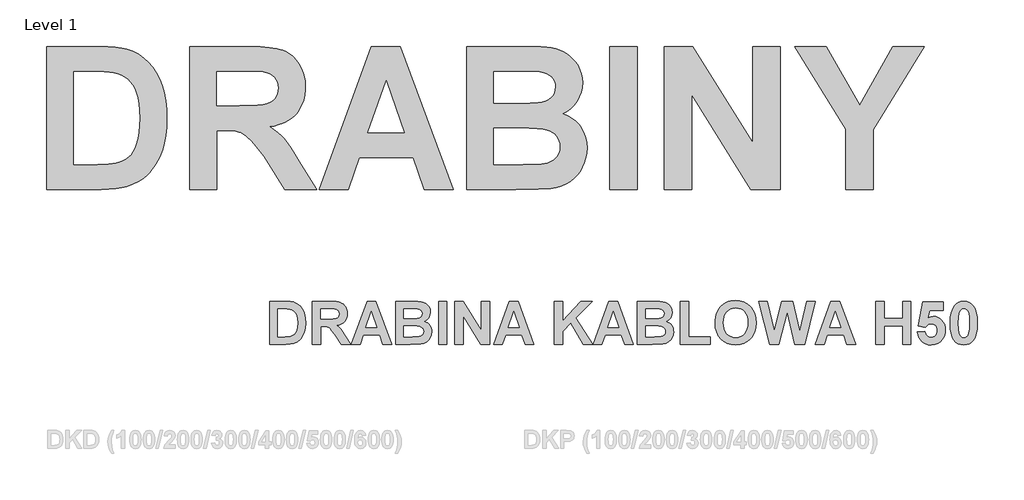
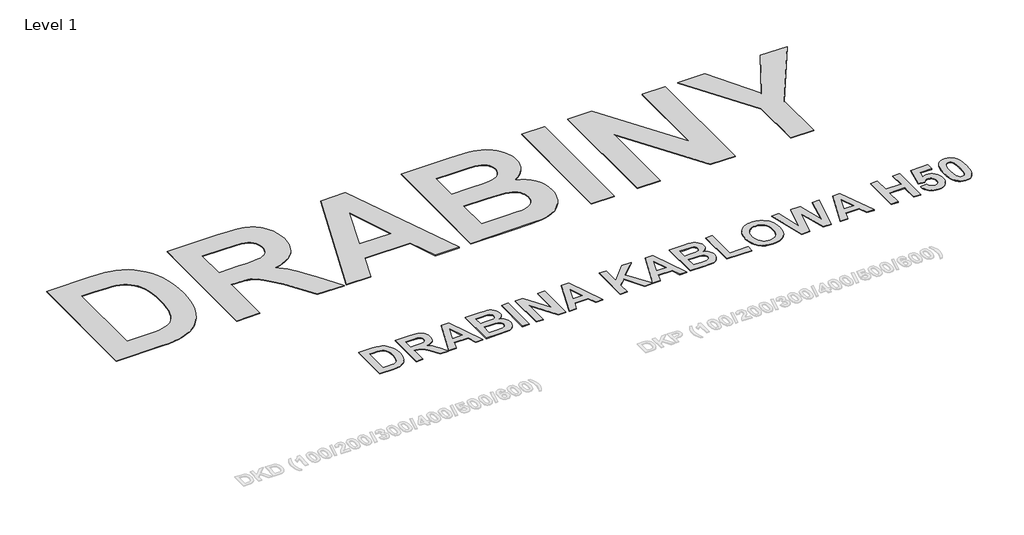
# One storey, part 35 of 42: 2 proxies.
"""IFC4 building model written with IfcOpenShell, lengths in millimetres."""

from ifc_helpers import new_model, si_unit, origin, origin_with_axes, place, context, project, spatial, polyline, outline, extrude, element, save

model = new_model("IFC4")

# Units and contexts
model_context = context("Model", 3, world=origin())
ifc_project = project(units=[si_unit("LENGTHUNIT", "METRE", prefix="MILLI")], contexts=[model_context])

# Site, building, storey
site = spatial("IfcSite", under=ifc_project)
building = spatial("IfcBuilding", under=site)
storey = spatial("IfcBuildingStorey", under=building, Name="Level 1", Elevation=0.0)

# Proxies
placement = place(None, origin())
element("IfcBuildingElementProxy", 1, Name="2000", ObjectType="2000", at=placement, inside=storey, context=model_context, shape_type="SweptSolid", body=[
    extrude(outline(polyline([(13186.787287, 27224.2582626), (13942.366297, 27224.2582626), (14062.5605467, 27221.8227475), (14167.5723649, 27214.5162023), (14257.4017516, 27202.338627), (14332.0487067, 27185.2900216), (14418.9048672, 27153.6125108), (14499.3084942, 27111.7184887), (14573.2595879, 27059.6079555), (14640.7581482, 26997.280911), (14701.1873887, 26926.050003), (14753.9305233, 26847.2278792), (14798.9875519, 26760.8145396), (14836.3584746, 26666.8099843), (14865.6953605, 26563.3005942), (14886.6502791, 26448.3727504), (14899.2232302, 26322.0264529), (14903.4142139, 26184.2617016), (14899.4920858, 26062.8022492), (14887.7257013, 25949.9461747), (14868.1150606, 25845.6934781), (14840.6601635, 25750.0441594), (14798.0860951, 25644.0201791), (14747.2882095, 25548.6239009), (14718.8053353, 25504.91115), (14688.2665069, 25463.8553247), (14655.6717241, 25425.4564249), (14621.0209871, 25389.7144507), (14562.6318858, 25340.4348083), (14494.7537648, 25296.8485777), (14417.386624, 25258.955759), (14330.5304635, 25226.7563521), (14256.4212196, 25207.936463), (14170.7353715, 25194.493685), (14073.4729194, 25186.4280183), (13964.6338633, 25183.7394627), (13186.787287, 25183.7394627), (13186.787287, 27224.2582626)]), holes=[polyline([(13575.4575346, 26867.9772023), (13575.4575346, 25540.020523), (13906.4345423, 25540.020523), (14066.3561546, 25544.828293), (14126.9593605, 25550.8380055), (14174.6574997, 25559.2516029), (14226.2619519, 25573.5642077), (14273.2800446, 25592.2101314), (14315.7117777, 25615.1893742), (14353.5571514, 25642.5019359), (14387.4803969, 25676.709852), (14418.1457456, 25720.3751577), (14445.5531975, 25773.4978531), (14469.7027527, 25836.0779381), (14489.4082837, 25909.5229507), (14503.4836629, 25995.2404289), (14511.9288905, 26093.2303725), (14514.7439663, 26203.4927816), (14511.9288905, 26312.9011789), (14503.4836629, 26408.8351683), (14489.4082837, 26491.2947496), (14469.7027527, 26560.2799229), (14444.9522263, 26619.1118452), (14415.7418606, 26671.1116732), (14382.0716556, 26716.2794071), (14343.9416114, 26754.6150467), (14300.8456469, 26786.6879334), (14252.2776809, 26813.0674082), (14198.2377137, 26833.7534712), (14138.725745, 26848.7461223), (14081.0641352, 26857.1597198), (14001.1982192, 26863.1694323), (13774.8534689, 26867.9772023), (13575.4575346, 26867.9772023)])]), origin_with_axes(), (0.0, 0.0, 1.0), 10.0),
    extrude(outline(polyline([(15227.3060869, 25183.7394627), (15227.3060869, 27224.2582626), (16085.6195504, 27224.2582626), (16236.4949639, 27220.8105854), (16365.2293314, 27210.4675539), (16471.8226528, 27193.2291681), (16516.8164213, 27182.0242173), (16556.2749283, 27169.095428), (16592.0485327, 27153.9604415), (16625.9875932, 27136.1368995), (16658.0921099, 27115.6248019), (16688.3620828, 27092.4241487), (16716.7975119, 27066.5349399), (16743.3983971, 27037.9571755), (16791.0965363, 26972.73598), (16829.6219563, 26899.5756379), (16857.1401135, 26821.2912253), (16873.6510078, 26737.882742), (16879.1546392, 26649.350188), (16877.1658988, 26592.9142432), (16871.1996777, 26538.9928887), (16861.2559758, 26487.5861244), (16847.3347931, 26438.6939503), (16829.4361297, 26392.3163664), (16807.5599855, 26348.4533728), (16781.7063605, 26307.1049694), (16751.8752548, 26268.2711562), (16718.0824833, 26232.4342917), (16680.3438611, 26200.0767345), (16638.6593883, 26171.1984845), (16593.0290647, 26145.7995417), (16543.4528904, 26123.8799062), (16489.9308655, 26105.4395778), (16432.4629898, 26090.4785567), (16371.0492635, 26078.9968429), (16430.1025962, 26039.3327405), (16483.7788177, 25997.7708341), (16532.077928, 25954.3111238), (16574.9999272, 25908.9536096), (16618.7126781, 25853.6326246), (16669.3840434, 25780.2825022), (16727.0140231, 25688.9032423), (16791.6026173, 25579.494845), (17041.1005757, 25183.7394627), (16587.1458725, 25183.7394627), (16291.5945384, 25649.8401112), (16148.8164217, 25828.803023), (16097.4966401, 25887.7772806), (16059.5563762, 25926.4134058), (16027.8314203, 25952.6505454), (15995.1575624, 25974.4278456), (15961.5348025, 25991.7453066), (15926.9631407, 26004.6029283), (15886.8087723, 26013.9021676), (15836.4378926, 26020.5444814), (15705.0465996, 26025.8583325), (15615.9763345, 26025.8583325), (15615.9763345, 25183.7394627), (15227.3060869, 25183.7394627)]), holes=[polyline([(15615.9763345, 26382.1393928), (15936.3256402, 26382.1393928), (16077.3482882, 26383.6101908), (16189.1763855, 26388.022585), (16271.8099322, 26395.3765753), (16325.2489283, 26405.6721617), (16361.9714346, 26419.5577605), (16394.4555121, 26437.6817882), (16422.7011608, 26460.0442447), (16446.7083807, 26486.6451299), (16465.8603855, 26517.1523283), (16479.5403889, 26551.2337241), (16487.7483909, 26588.8893174), (16490.4843916, 26630.119108), (16486.8785641, 26676.1250386), (16476.0610817, 26717.4813496), (16458.0319442, 26754.1880408), (16432.7911517, 26786.2451125), (16400.9713056, 26813.2413736), (16363.2050072, 26834.7656333), (16319.4922563, 26850.8178916), (16269.8330531, 26861.3981486), (16164.5681944, 26866.3324389), (15954.038477, 26867.9772023), (15615.9763345, 26867.9772023), (15615.9763345, 26382.1393928)])]), origin_with_axes(), (0.0, 0.0, 1.0), 10.0),
    extrude(outline(polyline([(18984.4518137, 25183.7394627), (18576.0444051, 25183.7394627), (18416.1227928, 25637.1880849), (17645.3613513, 25637.1880849), (17487.4640632, 25183.7394627), (17073.489763, 25183.7394627), (17818.4410709, 27224.2582626), (18232.4153711, 27224.2582626), (18984.4518137, 25183.7394627)]), holes=[polyline([(18291.6268541, 25993.4691452), (18028.9707884, 26738.4204531), (17769.85729, 25993.4691452), (18291.6268541, 25993.4691452)])]), origin_with_axes(), (0.0, 0.0, 1.0), 10.0),
    extrude(outline(polyline([(19178.7869375, 27224.2582626), (20016.3510779, 27224.2582626), (20233.2700686, 27219.1974521), (20318.0544598, 27212.8714389), (20387.0554482, 27204.0150205), (20446.5516018, 27191.1257687), (20502.8214887, 27172.7012555), (20555.8651089, 27148.7414807), (20605.6824624, 27119.2464444), (20651.8781734, 27084.3268518), (20694.0568661, 27044.0934082), (20732.2185404, 26998.5461136), (20766.3631963, 26947.6849679), (20794.4823247, 26892.5379483), (20814.5674165, 26834.133032), (20826.6184715, 26772.4702188), (20830.6354899, 26707.5495089), (20825.8435349, 26637.1409826), (20811.46767, 26569.6424224), (20787.5078952, 26505.0538282), (20753.9642105, 26443.3752), (20712.1967088, 26386.9155327), (20663.5654827, 26337.983821), (20608.0705324, 26296.580065), (20545.7118578, 26262.7042646), (20625.1033228, 26230.8844185), (20661.1457827, 26211.416113), (20694.7527275, 26189.5755527), (20725.9241573, 26165.3627373), (20754.660072, 26138.7776671), (20780.9604716, 26109.8203419), (20804.8253562, 26078.4907618), (20844.4578286, 26010.5810107), (20872.7667374, 25936.9145877), (20889.7520827, 25857.4914926), (20895.4138645, 25772.3117256), (20891.349401, 25703.4688876), (20879.1560107, 25635.6065816), (20858.8336934, 25568.7248076), (20830.3824493, 25502.8235657), (20794.8935156, 25440.7021166), (20753.4581295, 25385.1597212), (20706.076291, 25336.1963795), (20652.7480002, 25293.8120914), (20593.1727714, 25258.4654929), (20527.050119, 25230.6152201), (20454.380043, 25210.2612728), (20375.1625434, 25197.4036511), (20198.793297, 25188.4207124), (19876.1666266, 25183.7394627), (19178.7869375, 25183.7394627), (19178.7869375, 27224.2582626)]), holes=[polyline([(19567.4571851, 26058.2475198), (19567.4571851, 25540.020523), (19978.394999, 25540.020523), (20174.754447, 25543.0570093), (20239.9123824, 25546.8526172), (20283.0557921, 25552.1664682), (20330.3427403, 25562.8732455), (20373.011699, 25579.3050646), (20411.062668, 25601.4619256), (20444.4956475, 25629.3438286), (20471.7291341, 25662.6977329), (20491.1816245, 25701.270598), (20502.8531188, 25745.062424), (20506.7436169, 25794.0732109), (20503.7387606, 25835.9514179), (20494.7241919, 25874.5400981), (20479.6999107, 25909.8392514), (20458.665917, 25941.8488779), (20431.9701415, 25970.1577867), (20399.960515, 25994.354787), (20362.6370374, 26014.4398788), (20319.9997088, 26030.4130619), (20261.4208271, 26042.5906372), (20176.2726902, 26051.2889053), (20064.555298, 26056.5078662), (19926.2686507, 26058.2475198), (19567.4571851, 26058.2475198)]), polyline([(19567.4571851, 26867.9772023), (19567.4571851, 26414.5285801), (19864.0206814, 26414.5285801), (20078.5990472, 26416.1733435), (20192.9733649, 26421.1076338), (20247.8357139, 26430.0589424), (20296.5302001, 26444.7669229), (20339.0568234, 26465.2315754), (20375.415584, 26491.4528999), (20404.5310595, 26522.8615552), (20425.3278277, 26558.8882), (20437.8058886, 26599.5328345), (20441.9652423, 26644.7954585), (20438.3752298, 26687.9863133), (20427.6051924, 26726.9703693), (20409.6551301, 26761.7476266), (20384.5250429, 26792.3180851), (20352.341451, 26817.9858834), (20313.2308748, 26838.0551601), (20267.1933141, 26852.5259152), (20214.228769, 26861.3981486), (20083.9128983, 26866.3324389), (19827.5828457, 26867.9772023), (19567.4571851, 26867.9772023)])]), origin_with_axes(), (0.0, 0.0, 1.0), 10.0),
    extrude(outline(polyline([(21219.3057375, 25183.7394627), (21219.3057375, 27224.2582626), (21607.9759851, 27224.2582626), (21607.9759851, 25183.7394627), (21219.3057375, 25183.7394627)])), origin_with_axes(), (0.0, 0.0, 1.0), 10.0),
    extrude(outline(polyline([(21996.6462327, 25183.7394627), (21996.6462327, 27224.2582626), (22404.0414792, 27224.2582626), (23259.8245374, 25850.7542886), (23259.8245374, 27224.2582626), (23648.494785, 27224.2582626), (23648.494785, 25183.7394627), (23228.4475122, 25183.7394627), (22385.3164803, 26537.0001946), (22385.3164803, 25183.7394627), (21996.6462327, 25183.7394627)])), origin_with_axes(), (0.0, 0.0, 1.0), 10.0),
    extrude(outline(polyline([(24587.7812167, 25183.7394627), (24587.7812167, 26042.5590072), (23859.0245024, 27224.2582626), (24309.4366383, 27224.2582626), (24781.1041784, 26385.6819601), (25254.7960426, 27224.2582626), (25705.2081785, 27224.2582626), (24976.4514643, 26039.5225209), (24976.4514643, 25183.7394627), (24587.7812167, 25183.7394627)])), origin_with_axes(), (0.0, 0.0, 1.0), 10.0),
])
element("IfcBuildingElementProxy", 2, Name="600mm Arial", ObjectType="600mm Arial", at=placement, inside=storey, context=model_context, shape_type="SweptSolid", body=[
    extrude(outline(polyline([(16367.589447, 23585.9974666), (16594.26315, 23585.9974666), (16661.8249704, 23583.0748486), (16711.1678729, 23574.3069944), (16737.2247211, 23564.8037411), (16761.3458092, 23552.2355345), (16783.5311373, 23536.6023745), (16803.7807054, 23517.9042612), (16821.9094775, 23496.5349888), (16837.7324179, 23472.8883516), (16862.4608033, 23418.7629832), (16871.2618691, 23387.7101661), (16877.5483446, 23353.231813), (16882.5775251, 23273.9984984), (16877.8709713, 23203.7038403), (16863.75131, 23143.7332357), (16850.9790894, 23111.9260416), (16835.7397238, 23083.3071581), (16818.033213, 23057.8765853), (16797.8595571, 23035.6343231), (16759.9793903, 23007.7745612), (16710.7124, 22986.7468935), (16662.7738724, 22977.0680934), (16600.9434199, 22973.8418267), (16367.589447, 22973.8418267), (16367.589447, 23585.9974666)]), holes=[polyline([(16484.1905213, 23479.1131486), (16484.1905213, 23080.7261448), (16583.4836236, 23080.7261448), (16631.4601073, 23082.1684758), (16663.9505108, 23086.4954687), (16693.5372743, 23096.3830273), (16717.6204063, 23111.4705686), (16736.9969846, 23134.8325352), (16752.4640867, 23169.5433693), (16762.5983598, 23217.2921165), (16765.9764508, 23279.7678223), (16762.5983598, 23341.3705383), (16752.4640867, 23386.8039647), (16736.2758191, 23420.0534898), (16714.7357443, 23445.1045019), (16687.2365652, 23462.6402103), (16653.1709844, 23473.3438246), (16611.9127267, 23477.6708176), (16544.0093016, 23479.1131486), (16484.1905213, 23479.1131486)])]), origin_with_axes(), (0.0, 0.0, 1.0), 10.0),
    extrude(outline(polyline([(16979.745087, 22973.8418267), (16979.745087, 23585.9974666), (17237.239126, 23585.9974666), (17321.1220603, 23581.860254), (17353.1000568, 23576.6887383), (17378.4357394, 23569.4486163), (17399.3495389, 23559.5610577), (17418.0618857, 23546.4472325), (17434.5727801, 23530.1071405), (17448.8822218, 23510.5407819), (17460.4398478, 23488.5926792), (17468.695295, 23465.1073554), (17473.6485632, 23440.0848105), (17475.2996527, 23413.5250443), (17472.9131642, 23380.4178545), (17465.7536988, 23350.328173), (17453.8212565, 23323.2559997), (17437.1158373, 23299.2013347), (17415.6564192, 23278.7430082), (17389.4619803, 23262.4598504), (17358.5325206, 23250.3518612), (17322.8680399, 23242.4190407), (17356.6869062, 23218.0512381), (17384.0532391, 23191.4060707), (17412.3684739, 23152.8047385), (17449.0340461, 23092.5684414), (17523.8834336, 22973.8418267), (17387.6970227, 22973.8418267), (17299.0316224, 23113.6720212), (17256.1981874, 23167.3608948), (17229.4201738, 23196.6440096), (17210.1005296, 23211.0483415), (17189.6422031, 23220.1008664), (17162.4846287, 23224.8833323), (17123.0672408, 23226.4774876), (17096.3461613, 23226.4774876), (17096.3461613, 22973.8418267), (16979.745087, 22973.8418267)]), holes=[polyline([(17096.3461613, 23333.3618057), (17192.450953, 23333.3618057), (17268.3061766, 23335.1267634), (17309.1279394, 23340.4216364), (17329.8899145, 23350.0245243), (17345.5657751, 23364.7135268), (17355.4153776, 23384.0901051), (17358.6985784, 23407.7557203), (17354.3715854, 23433.9643927), (17341.3906064, 23454.5935216), (17320.5147631, 23469.1496778), (17292.5031769, 23477.1394325), (17197.764804, 23479.1131486), (17096.3461613, 23479.1131486), (17096.3461613, 23333.3618057)])]), origin_with_axes(), (0.0, 0.0, 1.0), 10.0),
    extrude(outline(polyline([(18106.888805, 22973.8418267), (17984.3665824, 22973.8418267), (17936.3900988, 23109.8764133), (17705.1616663, 23109.8764133), (17657.7924799, 22973.8418267), (17533.6001898, 22973.8418267), (17757.0855822, 23585.9974666), (17881.2778722, 23585.9974666), (18106.888805, 22973.8418267)]), holes=[polyline([(17899.0413172, 23216.7607314), (17820.2444974, 23440.2461238), (17742.5104479, 23216.7607314), (17899.0413172, 23216.7607314)])]), origin_with_axes(), (0.0, 0.0, 1.0), 10.0),
    extrude(outline(polyline([(18165.1893422, 23585.9974666), (18416.4585843, 23585.9974666), (18481.5342815, 23584.4792235), (18527.6698954, 23579.924494), (18562.3997075, 23570.5303645), (18593.2579996, 23554.4939212), (18619.7703207, 23531.9480103), (18641.4622198, 23503.0254782), (18655.9234858, 23468.9598975), (18660.7439079, 23430.9848405), (18654.9935619, 23389.6127146), (18637.7425241, 23351.7325479), (18610.6229057, 23320.1151342), (18575.2668183, 23297.5312672), (18599.0842577, 23287.9853134), (18619.9790792, 23275.5926537), (18637.9512825, 23260.353288), (18653.0008678, 23242.2672164), (18664.8906095, 23221.8942911), (18673.3832821, 23199.7943642), (18678.4788857, 23175.9674357), (18680.1774202, 23150.4135056), (18675.3000641, 23109.4019623), (18660.6679957, 23069.5670576), (18637.5906998, 23034.2679042), (18607.377661, 23006.8636153), (18569.6682966, 22987.9045539), (18524.1020239, 22977.9410832), (18374.4032489, 22973.8418267), (18165.1893422, 22973.8418267), (18165.1893422, 23585.9974666)]), holes=[polyline([(18281.7904165, 23236.1942438), (18281.7904165, 23080.7261448), (18405.0717606, 23080.7261448), (18496.4699985, 23084.3699283), (18523.4567706, 23092.5115072), (18544.9019552, 23107.5231364), (18558.9077483, 23129.1011673), (18563.576346, 23156.9419511), (18559.9705185, 23181.0820173), (18549.153036, 23201.2746512), (18531.5414154, 23217.026424), (18507.5531736, 23227.8439064), (18464.435068, 23234.1066595), (18389.4338561, 23236.1942438), (18281.7904165, 23236.1942438)]), polyline([(18281.7904165, 23479.1131486), (18281.7904165, 23343.0785619), (18370.7594653, 23343.0785619), (18469.4452704, 23345.052278), (18500.5123209, 23352.1500647), (18524.1779361, 23366.1558578), (18539.1516092, 23386.3864479), (18544.1428336, 23412.1586254), (18539.8348186, 23436.8110987), (18526.9107738, 23456.4154134), (18505.5225233, 23470.1365359), (18475.8218916, 23477.1394325), (18359.8281146, 23479.1131486), (18281.7904165, 23479.1131486)])]), origin_with_axes(), (0.0, 0.0, 1.0), 10.0),
    extrude(outline(polyline([(18777.3449821, 22973.8418267), (18777.3449821, 23585.9974666), (18893.9460564, 23585.9974666), (18893.9460564, 22973.8418267), (18777.3449821, 22973.8418267)])), origin_with_axes(), (0.0, 0.0, 1.0), 10.0),
    extrude(outline(polyline([(19010.5471307, 22973.8418267), (19010.5471307, 23585.9974666), (19132.7657047, 23585.9974666), (19389.5006221, 23173.9462745), (19389.5006221, 23585.9974666), (19506.1016964, 23585.9974666), (19506.1016964, 22973.8418267), (19380.0875146, 22973.8418267), (19127.148205, 23379.8200462), (19127.148205, 22973.8418267), (19010.5471307, 22973.8418267)])), origin_with_axes(), (0.0, 0.0, 1.0), 10.0),
    extrude(outline(polyline([(20137.6908488, 22973.8418267), (20015.1686262, 22973.8418267), (19967.1921425, 23109.8764133), (19735.96371, 23109.8764133), (19688.5945236, 22973.8418267), (19564.4022335, 22973.8418267), (19787.8876259, 23585.9974666), (19912.079916, 23585.9974666), (20137.6908488, 22973.8418267)]), holes=[polyline([(19929.8433609, 23216.7607314), (19851.0465411, 23440.2461238), (19773.3124916, 23216.7607314), (19929.8433609, 23216.7607314)])]), origin_with_axes(), (0.0, 0.0, 1.0), 10.0),
    extrude(outline(polyline([(20429.1935345, 22973.8418267), (20429.1935345, 23585.9974666), (20545.7946087, 23585.9974666), (20545.7946087, 23306.9443748), (20808.4506745, 23585.9974666), (20968.473503, 23585.9974666), (20736.7895976, 23352.1880208), (20978.1902592, 22973.8418267), (20841.8520239, 22973.8418267), (20661.0292642, 23275.5167415), (20545.7946087, 23159.0674915), (20545.7946087, 22973.8418267), (20429.1935345, 22973.8418267)])), origin_with_axes(), (0.0, 0.0, 1.0), 10.0),
    extrude(outline(polyline([(21556.3372525, 22973.8418267), (21433.8150299, 22973.8418267), (21385.8385462, 23109.8764133), (21154.6101138, 23109.8764133), (21107.2409273, 22973.8418267), (20983.0486373, 22973.8418267), (21206.5340297, 23585.9974666), (21330.7263197, 23585.9974666), (21556.3372525, 22973.8418267)]), holes=[polyline([(21348.4897646, 23216.7607314), (21269.6929449, 23440.2461238), (21191.9588954, 23216.7607314), (21348.4897646, 23216.7607314)])]), origin_with_axes(), (0.0, 0.0, 1.0), 10.0),
    extrude(outline(polyline([(21614.6377896, 23585.9974666), (21865.9070317, 23585.9974666), (21930.982729, 23584.4792235), (21977.1183428, 23579.924494), (22011.848155, 23570.5303645), (22042.7064471, 23554.4939212), (22069.2187682, 23531.9480103), (22090.9106673, 23503.0254782), (22105.3719333, 23468.9598975), (22110.1923553, 23430.9848405), (22104.4420094, 23389.6127146), (22087.1909715, 23351.7325479), (22060.0713532, 23320.1151342), (22024.7152657, 23297.5312672), (22048.5327052, 23287.9853134), (22069.4275266, 23275.5926537), (22087.39973, 23260.353288), (22102.4493153, 23242.2672164), (22114.339057, 23221.8942911), (22122.8317296, 23199.7943642), (22127.9273332, 23175.9674357), (22129.6258677, 23150.4135056), (22124.7485116, 23109.4019623), (22110.1164432, 23069.5670576), (22087.0391472, 23034.2679042), (22056.8261085, 23006.8636153), (22019.1167441, 22987.9045539), (21973.5504714, 22977.9410832), (21823.8516964, 22973.8418267), (21614.6377896, 22973.8418267), (21614.6377896, 23585.9974666)]), holes=[polyline([(21731.2388639, 23479.1131486), (21731.2388639, 23343.0785619), (21820.2079128, 23343.0785619), (21918.8937178, 23345.052278), (21949.9607684, 23352.1500647), (21973.6263836, 23366.1558578), (21988.6000567, 23386.3864479), (21993.5912811, 23412.1586254), (21989.2832661, 23436.8110987), (21976.3592213, 23456.4154134), (21954.9709708, 23470.1365359), (21925.2703391, 23477.1394325), (21809.2765621, 23479.1131486), (21731.2388639, 23479.1131486)]), polyline([(21731.2388639, 23236.1942438), (21731.2388639, 23080.7261448), (21854.5202081, 23080.7261448), (21945.918446, 23084.3699283), (21972.9052181, 23092.5115072), (21994.3504026, 23107.5231364), (22008.3561957, 23129.1011673), (22013.0247934, 23156.9419511), (22009.4189659, 23181.0820173), (21998.6014835, 23201.2746512), (21980.9898629, 23217.026424), (21957.001621, 23227.8439064), (21913.8835154, 23234.1066595), (21838.8823036, 23236.1942438), (21731.2388639, 23236.1942438)])]), origin_with_axes(), (0.0, 0.0, 1.0), 10.0),
    extrude(outline(polyline([(22226.7934296, 22973.8418267), (22226.7934296, 23585.9974666), (22343.3945039, 23585.9974666), (22343.3945039, 23080.7261448), (22654.330702, 23080.7261448), (22654.330702, 22973.8418267), (22226.7934296, 22973.8418267)])), origin_with_axes(), (0.0, 0.0, 1.0), 10.0),
    extrude(outline(polyline([(22722.3479953, 23276.1240388), (22724.0655079, 23320.9311899), (22729.2180456, 23361.9806892), (22737.8056084, 23399.2725367), (22749.8281964, 23432.8067323), (22774.0631528, 23477.0445423), (22805.7754567, 23516.5378423), (22842.9154798, 23548.8574435), (22883.433594, 23571.5741567), (22912.6028406, 23582.1354356), (22943.9355837, 23589.6792063), (22977.4318233, 23594.2054687), (23013.0915594, 23595.7142228), (23076.1935406, 23590.4810285), (23132.6532079, 23574.7814453), (23182.4705614, 23548.6154735), (23225.6456011, 23511.9831129), (23244.3271087, 23490.0290796), (23260.5177486, 23466.0325349), (23285.4264253, 23411.9119109), (23300.3716314, 23349.621241), (23305.3533667, 23279.1605251), (23300.4095874, 23209.1790047), (23285.5782496, 23147.263151), (23260.8593533, 23093.4129641), (23244.7920706, 23069.5124957), (23226.2528984, 23047.628444), (23183.3625292, 23011.0957181), (23133.7918902, 22985.0009139), (23077.5409814, 22969.3440313), (23014.6098026, 22964.1250705), (22951.0143925, 22969.3203088), (22894.2890326, 22984.9060237), (22844.433723, 23010.8822151), (22801.4484637, 23047.2488832), (22766.8420088, 23092.7250102), (22742.1231124, 23146.0295784), (22727.2917746, 23207.162588), (22722.3479953, 23276.1240388)]), holes=[polyline([(22838.9490696, 23280.3751196), (22842.0472345, 23231.952652), (22851.3417293, 23189.7739593), (22866.832554, 23153.8390417), (22888.5197086, 23124.147899), (22914.9798401, 23100.8998007), (22944.7895955, 23084.2940162), (22977.9489749, 23074.3305455), (23014.4579783, 23071.0093886), (23050.9290256, 23074.3068229), (23083.9745367, 23084.199126), (23113.5945118, 23100.6862977), (23139.7889507, 23123.7683382), (23161.2104127, 23153.4452474), (23176.511457, 23189.7170252), (23185.6920836, 23232.5836718), (23188.7522924, 23282.0451871), (23185.7727402, 23330.8187484), (23176.8340837, 23372.987952), (23161.9363227, 23408.5527979), (23141.0794574, 23437.5132861), (23115.2883018, 23459.9643068), (23085.5876701, 23476.0007501), (23051.9775622, 23485.6226161), (23014.4579783, 23488.8299047), (22976.9004382, 23485.58466), (22943.1764622, 23475.8489258), (22913.2860501, 23459.6227021), (22887.2292019, 23436.9059889), (22866.106644, 23407.6513411), (22851.0191027, 23371.8113136), (22841.9665779, 23329.3859064), (22838.9490696, 23280.3751196)])]), origin_with_axes(), (0.0, 0.0, 1.0), 10.0),
    extrude(outline(polyline([(23498.3220717, 22973.8418267), (23344.2203915, 23585.9974666), (23463.8579521, 23585.9974666), (23562.8474058, 23165.4441128), (23669.2762509, 23585.9974666), (23826.1107688, 23585.9974666), (23932.084141, 23158.4601943), (24031.0735947, 23585.9974666), (24150.7111553, 23585.9974666), (23998.8868398, 22973.8418267), (23860.878537, 22973.8418267), (23747.4657734, 23431.4403135), (23631.775645, 22973.8418267), (23498.3220717, 22973.8418267)])), origin_with_axes(), (0.0, 0.0, 1.0), 10.0),
    extrude(outline(polyline([(24723.9997705, 22973.8418267), (24601.4775479, 22973.8418267), (24553.5010642, 23109.8764133), (24322.2726317, 23109.8764133), (24274.9034453, 22973.8418267), (24150.7111553, 22973.8418267), (24374.1965476, 23585.9974666), (24498.3888377, 23585.9974666), (24723.9997705, 22973.8418267)]), holes=[polyline([(24516.1522826, 23216.7607314), (24437.3554629, 23440.2461238), (24359.6214133, 23216.7607314), (24516.1522826, 23216.7607314)])]), origin_with_axes(), (0.0, 0.0, 1.0), 10.0),
    extrude(outline(polyline([(25015.5024562, 22973.8418267), (25015.5024562, 23585.9974666), (25132.1035304, 23585.9974666), (25132.1035304, 23343.0785619), (25394.4559476, 23343.0785619), (25394.4559476, 23585.9974666), (25511.0570219, 23585.9974666), (25511.0570219, 22973.8418267), (25394.4559476, 22973.8418267), (25394.4559476, 23236.1942438), (25132.1035304, 23236.1942438), (25132.1035304, 22973.8418267), (25015.5024562, 22973.8418267)])), origin_with_axes(), (0.0, 0.0, 1.0), 10.0),
    extrude(outline(polyline([(25608.2245838, 23146.1624247), (25715.1089019, 23158.4601943), (25725.0533945, 23122.2880511), (25733.7263585, 23107.3618231), (25744.8664677, 23094.5421575), (25771.5116351, 23076.8925808), (25801.9524103, 23071.0093886), (25819.6921327, 23072.5703323), (25836.0179911, 23077.2531635), (25850.9299856, 23085.0578823), (25864.4281161, 23095.9844885), (25875.6204149, 23110.0519602), (25883.614914, 23127.2792755), (25888.4116135, 23147.6664344), (25890.0105133, 23171.2134368), (25888.5254817, 23193.2754076), (25884.0703869, 23212.3957823), (25876.645229, 23228.574561), (25866.2500079, 23241.8117435), (25853.4730429, 23252.1073299), (25838.9026531, 23259.4613201), (25822.5388386, 23263.8737143), (25804.3815993, 23265.3445124), (25781.1714571, 23262.3080261), (25759.2138655, 23253.1985671), (25738.5088245, 23238.0161356), (25719.0563341, 23216.7607314), (25617.94134, 23231.7913387), (25685.9586333, 23576.2807105), (25977.461319, 23576.2807105), (25977.461319, 23459.6796362), (25780.2415332, 23459.6796362), (25756.7087643, 23348.3924129), (25793.8677655, 23366.2697261), (25831.8618004, 23372.2288305), (25866.9901514, 23368.7795718), (25899.3477087, 23358.4317958), (25928.9344722, 23341.1855025), (25955.7504419, 23317.0406918), (25978.0021931, 23287.3922497), (25993.8963011, 23253.635062), (26003.432766, 23215.7691289), (26006.6115876, 23173.7944501), (26003.9641511, 23138.106247), (25996.0218416, 23104.3727819), (25982.784659, 23072.5940549), (25964.2526035, 23042.7700659), (25932.5308106, 23008.3628804), (25895.2104961, 22983.7863193), (25852.2916599, 22969.0403827), (25803.7743021, 22964.1250705), (25764.6747963, 22967.2090019), (25729.3614095, 22976.4607961), (25697.8341415, 22991.8804531), (25670.0929923, 23013.467973), (25646.8401495, 23040.2649647), (25628.7778005, 23071.3130372), (25615.9059452, 23106.6121905), (25608.2245838, 23146.1624247)])), origin_with_axes(), (0.0, 0.0, 1.0), 10.0),
    extrude(outline(polyline([(26268.9640047, 23585.9974666), (26310.0799271, 23582.0500344), (26346.4323617, 23570.2077378), (26378.0213083, 23550.4705768), (26404.846767, 23522.8385514), (26430.4196752, 23479.331396), (26448.6860381, 23423.507493), (26459.6458559, 23355.3668424), (26463.2991285, 23274.9094442), (26459.6268779, 23194.5279582), (26448.610126, 23126.3113955), (26430.2488728, 23070.259756), (26404.5431184, 23026.3730398), (26377.8505059, 22999.1395532), (26346.3564495, 22979.6870628), (26310.0609491, 22968.0155686), (26268.9640047, 22964.1250705), (26227.4258209, 22968.3951294), (26190.1102508, 22981.205306), (26157.0172946, 23002.5556003), (26128.1469521, 23032.4460124), (26104.7327959, 23073.2962423), (26088.0083987, 23127.52599), (26077.9737603, 23195.1352555), (26074.6288809, 23276.1240388), (26078.3011315, 23356.106986), (26089.3178834, 23424.0388781), (26107.6791366, 23479.9197152), (26133.384891, 23523.7494973), (26160.0775034, 23550.9829839), (26191.5715599, 23570.4354743), (26227.8670603, 23582.1069686), (26268.9640047, 23585.9974666)]), holes=[polyline([(26268.9640047, 23479.1131486), (26248.3918099, 23475.9058599), (26230.0969799, 23466.2839939), (26214.9145484, 23448.3497466), (26203.679549, 23420.2053141), (26194.3423536, 23362.2463817), (26191.2299552, 23274.9094442), (26194.0007489, 23188.7301672), (26202.3131302, 23134.5478646), (26214.8576143, 23102.7406705), (26230.3247164, 23083.6867189), (26248.4487441, 23074.1787212), (26268.9640047, 23071.0093886), (26289.5361994, 23074.2166772), (26307.8310294, 23083.8385432), (26323.013461, 23101.7727905), (26334.2484603, 23129.917223), (26343.5856557, 23187.5725068), (26346.6980542, 23274.9094442), (26343.9272605, 23360.9938311), (26335.6148792, 23415.1951117), (26323.0703951, 23447.097196), (26307.603293, 23466.2839939), (26289.4792653, 23475.9058599), (26268.9640047, 23479.1131486)])]), origin_with_axes(), (0.0, 0.0, 1.0), 10.0),
])

save(model, "model.ifc")
